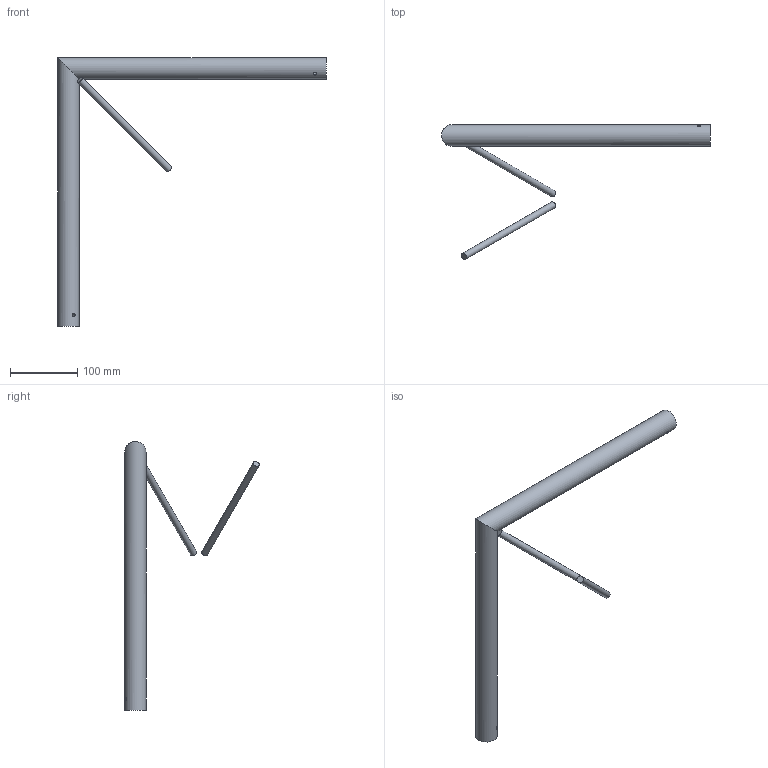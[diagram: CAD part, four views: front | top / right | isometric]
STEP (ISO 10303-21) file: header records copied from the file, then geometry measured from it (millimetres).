
FILE_DESCRIPTION(/* description */ (''),/* implementation_level */ '2;1');
FILE_NAME(/* name */ 'M:\Symbolen_NIEUW\STP\Corners\E20D\E20D-C007_260031717.stp',/* time_stamp */ '2017-11-16T14:58:02+01:00',/* author */ ('Kees'),/* organization */ (''),/* preprocessor_version */ 'ST-DEVELOPER v16.13',/* originating_system */ 'Autodesk Inventor 2018',/* authorisation */ '');
FILE_SCHEMA (('AUTOMOTIVE_DESIGN { 1 0 10303 214 3 1 1 }'));
Length unit declared in the file: millimetre
Products named in the file (1): 260031717
Bounding box: 400 x 200.67 x 400 mm (x, y, z)
Volume: 648296.6 mm3; surface area: 92805.7 mm2
Topology: 3 solids, 3 shells, 12 faces, 30 edges, 24 vertices
Faces by surface type: cylinder 6, plane 6
Full cylindrical faces by diameter (mm): 5 x2, 10 x2, 32 x2
Entity records: 627 total; most frequent: CARTESIAN_POINT 219, ORIENTED_EDGE 56, DIRECTION 54, VERTEX_POINT 38, EDGE_LOOP 32, EDGE_CURVE 28, AXIS2_PLACEMENT_3D 21, FACE_BOUND 20
